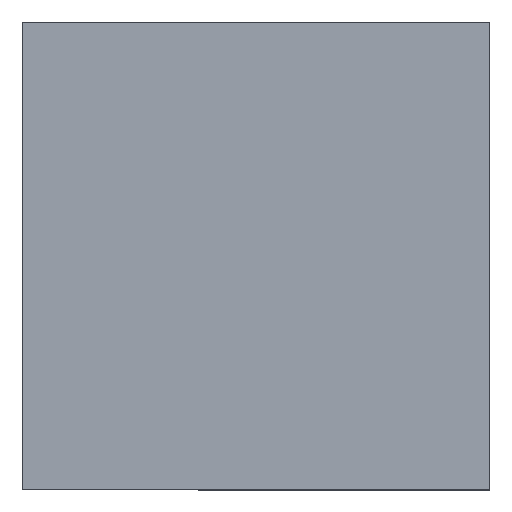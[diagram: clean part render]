
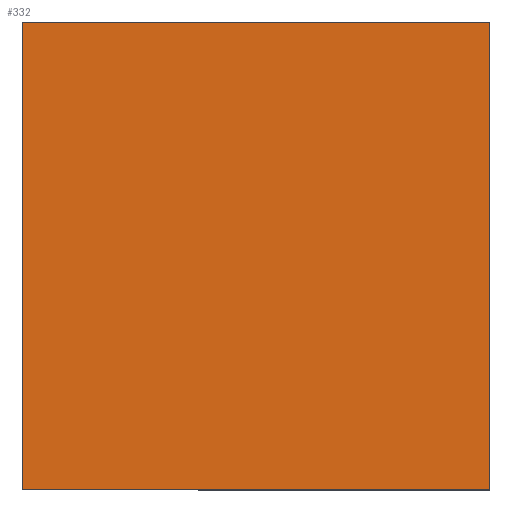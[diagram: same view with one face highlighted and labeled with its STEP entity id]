
A CAD part, top view. The second image highlights one B-rep face of the part: STEP entity #332.
In plain terms, the highlighted planar face has unit normal (0, 0, 1).
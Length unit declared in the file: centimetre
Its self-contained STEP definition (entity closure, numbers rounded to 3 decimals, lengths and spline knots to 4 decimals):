
#15 = VECTOR ( 'NONE', #268, 100. ) ;
#20 = CARTESIAN_POINT ( 'NONE',  ( 0., 0., 1000. ) ) ;
#23 = CARTESIAN_POINT ( 'NONE',  ( 1000., 1000., 1000. ) ) ;
#26 = LINE ( 'NONE', #153, #58 ) ;
#29 = EDGE_CURVE ( 'NONE', #317, #127, #374, .T. ) ;
#41 = EDGE_CURVE ( 'NONE', #127, #391, #115, .T. ) ;
#58 = VECTOR ( 'NONE', #155, 100. ) ;
#61 = ORIENTED_EDGE ( 'NONE', *, *, #386, .T. ) ;
#70 = VERTEX_POINT ( 'NONE', #303 ) ;
#88 = PLANE ( 'NONE',  #260 ) ;
#93 = ORIENTED_EDGE ( 'NONE', *, *, #398, .T. ) ;
#108 = DIRECTION ( 'NONE',  ( 0., -1., 0. ) ) ;
#115 = LINE ( 'NONE', #275, #249 ) ;
#118 = CARTESIAN_POINT ( 'NONE',  ( 1000., 1000., 1000. ) ) ;
#127 = VERTEX_POINT ( 'NONE', #202 ) ;
#151 = DIRECTION ( 'NONE',  ( 0., 0., 1. ) ) ;
#153 = CARTESIAN_POINT ( 'NONE',  ( 0., 0., 1000. ) ) ;
#155 = DIRECTION ( 'NONE',  ( 1., 0., 0. ) ) ;
#171 = VECTOR ( 'NONE', #183, 100. ) ;
#183 = DIRECTION ( 'NONE',  ( 0., 1., 0. ) ) ;
#202 = CARTESIAN_POINT ( 'NONE',  ( 0., 1000., 1000. ) ) ;
#214 = FACE_OUTER_BOUND ( 'NONE', #385, .T. ) ;
#249 = VECTOR ( 'NONE', #108, 100. ) ;
#260 = AXIS2_PLACEMENT_3D ( 'NONE', #20, #151, #381 ) ;
#268 = DIRECTION ( 'NONE',  ( -1., 0., 0. ) ) ;
#275 = CARTESIAN_POINT ( 'NONE',  ( 0., 1000., 1000. ) ) ;
#303 = CARTESIAN_POINT ( 'NONE',  ( 1000., 0., 1000. ) ) ;
#317 = VERTEX_POINT ( 'NONE', #23 ) ;
#332 = ADVANCED_FACE ( 'NONE', ( #214 ), #88, .T. ) ;
#371 = CARTESIAN_POINT ( 'NONE',  ( 0., 0., 1000. ) ) ;
#374 = LINE ( 'NONE', #397, #15 ) ;
#379 = LINE ( 'NONE', #118, #171 ) ;
#381 = DIRECTION ( 'NONE',  ( 1., 0., 0. ) ) ;
#383 = ORIENTED_EDGE ( 'NONE', *, *, #41, .T. ) ;
#385 = EDGE_LOOP ( 'NONE', ( #383, #61, #93, #389 ) ) ;
#386 = EDGE_CURVE ( 'NONE', #391, #70, #26, .T. ) ;
#389 = ORIENTED_EDGE ( 'NONE', *, *, #29, .T. ) ;
#391 = VERTEX_POINT ( 'NONE', #371 ) ;
#397 = CARTESIAN_POINT ( 'NONE',  ( 0., 1000., 1000. ) ) ;
#398 = EDGE_CURVE ( 'NONE', #70, #317, #379, .T. ) ;
